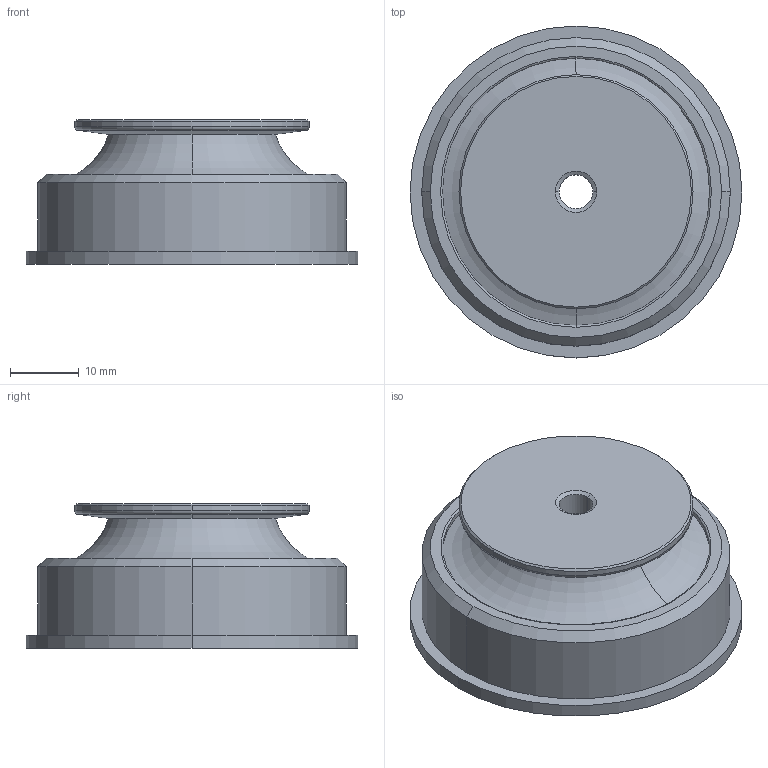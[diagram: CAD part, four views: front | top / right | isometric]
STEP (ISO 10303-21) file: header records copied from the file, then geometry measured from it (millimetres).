
FILE_DESCRIPTION(('STEP AP214'),'1');
FILE_NAME('U:/Inhalte (Daten)/Content neue Seite/CAD Files/EluFlex_50_SB.stp','2014-08-27T14:34:11',(' '),(' '),'Spatial InterOp 3D',' ',' ');
FILE_SCHEMA(('automotive_design'));
Length unit declared in the file: millimetre
Products named in the file (1): 1
Bounding box: 48.2 x 48.2 x 21 mm (x, y, z)
Volume: 22277.5 mm3; surface area: 7732.7 mm2
Topology: 1 solids, 1 shells, 46 faces, 112 edges, 72 vertices
Faces by surface type: torus 14, cylinder 14, cone 12, plane 6
Entity records: 1417 total; most frequent: DIRECTION 292, CARTESIAN_POINT 231, ORIENTED_EDGE 224, AXIS2_PLACEMENT_3D 133, EDGE_CURVE 112, CIRCLE 86, VERTEX_POINT 72, EDGE_LOOP 52
